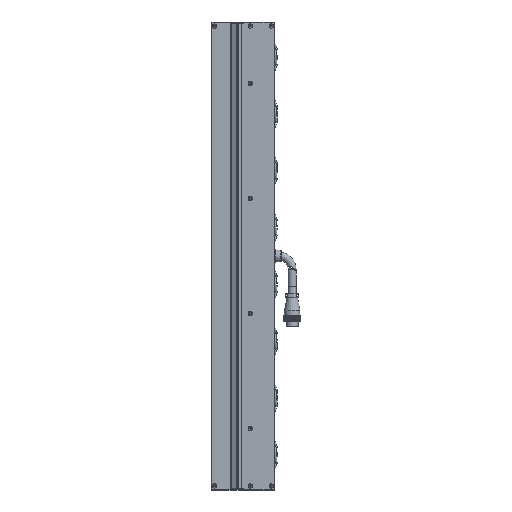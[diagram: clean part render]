
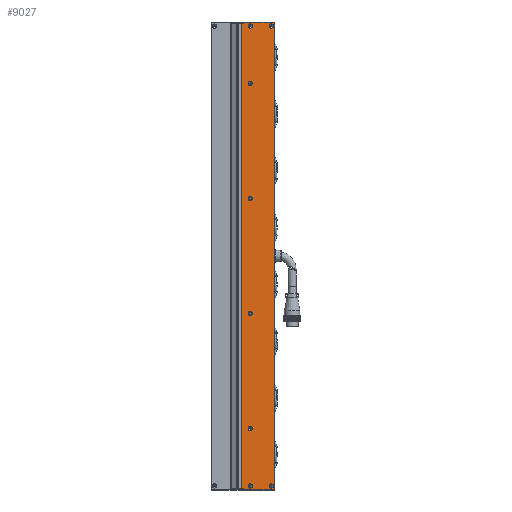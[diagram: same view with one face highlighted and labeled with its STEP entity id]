
A CAD part, left-side view. The second image highlights one B-rep face of the part: STEP entity #9027.
In plain terms, the highlighted planar face has unit normal (-1, 0, 0).
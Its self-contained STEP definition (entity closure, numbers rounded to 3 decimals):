
#577 = DIRECTION ( 'NONE',  ( 0., 0., 1. ) ) ;
#1006 = CARTESIAN_POINT ( 'NONE',  ( -24.998, -36.5, 85. ) ) ;
#1283 = CARTESIAN_POINT ( 'NONE',  ( -24.998, -26.5, 344. ) ) ;
#1455 = DIRECTION ( 'NONE',  ( -1., 0., 0. ) ) ;
#1468 = AXIS2_PLACEMENT_3D ( 'NONE', #47065, #26206, #98172 ) ;
#1773 = EDGE_LOOP ( 'NONE', ( #57017 ) ) ;
#3444 = CARTESIAN_POINT ( 'NONE',  ( -24.998, -26.5, -344. ) ) ;
#3943 = DIRECTION ( 'NONE',  ( -1., 0., 0. ) ) ;
#4529 = EDGE_CURVE ( 'NONE', #14513, #76721, #77367, .T. ) ;
#4598 = CARTESIAN_POINT ( 'NONE',  ( -24.998, -72.5, -344. ) ) ;
#5173 = CARTESIAN_POINT ( 'NONE',  ( -24.998, -67.5, 343.15 ) ) ;
#5901 = LINE ( 'NONE', #89440, #101138 ) ;
#7152 = VERTEX_POINT ( 'NONE', #23415 ) ;
#7849 = CARTESIAN_POINT ( 'NONE',  ( -24.998, -72., 344. ) ) ;
#8111 = AXIS2_PLACEMENT_3D ( 'NONE', #1006, #1455, #577 ) ;
#9027 = ADVANCED_FACE ( 'NONE', ( #43413, #62497, #19624, #95982, #41892, #121118, #56218, #32353, #45066 ), #101625, .F. ) ;
#9588 = AXIS2_PLACEMENT_3D ( 'NONE', #36836, #87060, #107866 ) ;
#11383 = AXIS2_PLACEMENT_3D ( 'NONE', #65580, #3943, #85656 ) ;
#12563 = CIRCLE ( 'NONE', #9588, 3.15 ) ;
#12730 = VECTOR ( 'NONE', #110406, 1000. ) ;
#13164 = ORIENTED_EDGE ( 'NONE', *, *, #58555, .F. ) ;
#14177 = VECTOR ( 'NONE', #96063, 1000. ) ;
#14196 = AXIS2_PLACEMENT_3D ( 'NONE', #106014, #44713, #115660 ) ;
#14513 = VERTEX_POINT ( 'NONE', #47980 ) ;
#14866 = VERTEX_POINT ( 'NONE', #17743 ) ;
#16731 = CARTESIAN_POINT ( 'NONE',  ( -24.998, -67.5, -336.85 ) ) ;
#16773 = CARTESIAN_POINT ( 'NONE',  ( -24.998, -36.5, 255. ) ) ;
#17743 = CARTESIAN_POINT ( 'NONE',  ( -24.998, -23.25, 344. ) ) ;
#18736 = EDGE_CURVE ( 'NONE', #122421, #58386, #109407, .T. ) ;
#19103 = CARTESIAN_POINT ( 'NONE',  ( -24.998, -72.5, 344. ) ) ;
#19624 = FACE_BOUND ( 'NONE', #71407, .T. ) ;
#23340 = AXIS2_PLACEMENT_3D ( 'NONE', #37682, #27448, #58111 ) ;
#23415 = CARTESIAN_POINT ( 'NONE',  ( -24.998, -36.5, 343.15 ) ) ;
#24738 = EDGE_LOOP ( 'NONE', ( #129806 ) ) ;
#25327 = AXIS2_PLACEMENT_3D ( 'NONE', #16773, #57582, #108174 ) ;
#25367 = CARTESIAN_POINT ( 'NONE',  ( -24.998, -72.5, 344. ) ) ;
#25840 = VERTEX_POINT ( 'NONE', #92825 ) ;
#26206 = DIRECTION ( 'NONE',  ( -1., 0., 0. ) ) ;
#27448 = DIRECTION ( 'NONE',  ( -1., 0., 0. ) ) ;
#27704 = ORIENTED_EDGE ( 'NONE', *, *, #95531, .F. ) ;
#29084 = CARTESIAN_POINT ( 'NONE',  ( -24.998, -72.5, -345.5 ) ) ;
#30228 = CARTESIAN_POINT ( 'NONE',  ( -24.998, -26.5, 345.5 ) ) ;
#31568 = DIRECTION ( 'NONE',  ( 0., 0., 1. ) ) ;
#32353 = FACE_BOUND ( 'NONE', #119329, .T. ) ;
#33195 = LINE ( 'NONE', #7849, #114146 ) ;
#33712 = VERTEX_POINT ( 'NONE', #5173 ) ;
#34808 = EDGE_CURVE ( 'NONE', #25840, #25840, #12563, .T. ) ;
#36836 = CARTESIAN_POINT ( 'NONE',  ( -24.998, -36.5, -255. ) ) ;
#36848 = VERTEX_POINT ( 'NONE', #123638 ) ;
#37589 = DIRECTION ( 'NONE',  ( 0., -1., 0. ) ) ;
#37682 = CARTESIAN_POINT ( 'NONE',  ( -24.998, -67.5, 340. ) ) ;
#38185 = EDGE_CURVE ( 'NONE', #33712, #33712, #56949, .T. ) ;
#39419 = CARTESIAN_POINT ( 'NONE',  ( -24.998, -23.25, -344. ) ) ;
#40987 = EDGE_LOOP ( 'NONE', ( #72522 ) ) ;
#41808 = EDGE_CURVE ( 'NONE', #128831, #128831, #73791, .T. ) ;
#41892 = FACE_BOUND ( 'NONE', #44425, .T. ) ;
#43413 = FACE_BOUND ( 'NONE', #100310, .T. ) ;
#44425 = EDGE_LOOP ( 'NONE', ( #27704 ) ) ;
#44713 = DIRECTION ( 'NONE',  ( -1., 0., 0. ) ) ;
#45066 = FACE_OUTER_BOUND ( 'NONE', #122204, .T. ) ;
#45535 = CARTESIAN_POINT ( 'NONE',  ( -24.998, -36.5, 258.15 ) ) ;
#47065 = CARTESIAN_POINT ( 'NONE',  ( -24.998, -67.5, -340. ) ) ;
#47801 = EDGE_CURVE ( 'NONE', #96037, #14513, #111506, .T. ) ;
#47978 = VECTOR ( 'NONE', #130511, 1000. ) ;
#47980 = CARTESIAN_POINT ( 'NONE',  ( -24.998, -26.5, -345.5 ) ) ;
#50351 = CARTESIAN_POINT ( 'NONE',  ( -24.998, -23.25, -344. ) ) ;
#52655 = EDGE_CURVE ( 'NONE', #78268, #78268, #88721, .T. ) ;
#53707 = EDGE_CURVE ( 'NONE', #58386, #60247, #5901, .T. ) ;
#54954 = ORIENTED_EDGE ( 'NONE', *, *, #34808, .F. ) ;
#56218 = FACE_BOUND ( 'NONE', #40987, .T. ) ;
#56949 = CIRCLE ( 'NONE', #23340, 3.15 ) ;
#57017 = ORIENTED_EDGE ( 'NONE', *, *, #82050, .F. ) ;
#57582 = DIRECTION ( 'NONE',  ( -1., 0., 0. ) ) ;
#58111 = DIRECTION ( 'NONE',  ( 0., 0., 1. ) ) ;
#58386 = VERTEX_POINT ( 'NONE', #30228 ) ;
#58555 = EDGE_CURVE ( 'NONE', #71665, #71665, #80130, .T. ) ;
#59285 = CARTESIAN_POINT ( 'NONE',  ( -24.998, -26.5, -337. ) ) ;
#59485 = DIRECTION ( 'NONE',  ( 0., 0., -1. ) ) ;
#60247 = VERTEX_POINT ( 'NONE', #1283 ) ;
#60349 = DIRECTION ( 'NONE',  ( 1., 0., 0. ) ) ;
#60873 = CARTESIAN_POINT ( 'NONE',  ( -24.998, -36.5, -340. ) ) ;
#61664 = AXIS2_PLACEMENT_3D ( 'NONE', #19103, #60349, #59485 ) ;
#62497 = FACE_BOUND ( 'NONE', #24738, .T. ) ;
#65580 = CARTESIAN_POINT ( 'NONE',  ( -24.998, -36.5, -85. ) ) ;
#65868 = ORIENTED_EDGE ( 'NONE', *, *, #103259, .F. ) ;
#67916 = EDGE_LOOP ( 'NONE', ( #85834 ) ) ;
#68510 = ORIENTED_EDGE ( 'NONE', *, *, #116154, .T. ) ;
#68771 = VECTOR ( 'NONE', #127285, 1000. ) ;
#71407 = EDGE_LOOP ( 'NONE', ( #54954 ) ) ;
#71665 = VERTEX_POINT ( 'NONE', #77359 ) ;
#72522 = ORIENTED_EDGE ( 'NONE', *, *, #52655, .F. ) ;
#73363 = VERTEX_POINT ( 'NONE', #119757 ) ;
#73791 = CIRCLE ( 'NONE', #25327, 3.15 ) ;
#76721 = VERTEX_POINT ( 'NONE', #97216 ) ;
#77180 = VERTEX_POINT ( 'NONE', #50351 ) ;
#77359 = CARTESIAN_POINT ( 'NONE',  ( -24.998, -36.5, -336.85 ) ) ;
#77367 = LINE ( 'NONE', #29084, #124752 ) ;
#78040 = DIRECTION ( 'NONE',  ( 0., 0., 1. ) ) ;
#78268 = VERTEX_POINT ( 'NONE', #16731 ) ;
#78384 = LINE ( 'NONE', #25367, #68771 ) ;
#78391 = CARTESIAN_POINT ( 'NONE',  ( -24.998, -72., 345.5 ) ) ;
#80130 = CIRCLE ( 'NONE', #124910, 3.15 ) ;
#82050 = EDGE_CURVE ( 'NONE', #73363, #73363, #86174, .T. ) ;
#85656 = DIRECTION ( 'NONE',  ( 0., 0., 1. ) ) ;
#85834 = ORIENTED_EDGE ( 'NONE', *, *, #41808, .F. ) ;
#86174 = CIRCLE ( 'NONE', #11383, 3.15 ) ;
#87060 = DIRECTION ( 'NONE',  ( -1., 0., 0. ) ) ;
#88063 = ORIENTED_EDGE ( 'NONE', *, *, #53707, .T. ) ;
#88233 = ORIENTED_EDGE ( 'NONE', *, *, #47801, .T. ) ;
#88721 = CIRCLE ( 'NONE', #1468, 3.15 ) ;
#89282 = ORIENTED_EDGE ( 'NONE', *, *, #4529, .T. ) ;
#89440 = CARTESIAN_POINT ( 'NONE',  ( -24.998, -26.5, 337. ) ) ;
#89938 = EDGE_CURVE ( 'NONE', #14866, #60247, #78384, .T. ) ;
#90363 = VECTOR ( 'NONE', #110150, 1000. ) ;
#91986 = DIRECTION ( 'NONE',  ( -1., 0., 0. ) ) ;
#92620 = ORIENTED_EDGE ( 'NONE', *, *, #38185, .F. ) ;
#92825 = CARTESIAN_POINT ( 'NONE',  ( -24.998, -36.5, -251.85 ) ) ;
#93365 = ORIENTED_EDGE ( 'NONE', *, *, #18736, .T. ) ;
#95531 = EDGE_CURVE ( 'NONE', #36848, #36848, #107945, .T. ) ;
#95982 = FACE_BOUND ( 'NONE', #1773, .T. ) ;
#96037 = VERTEX_POINT ( 'NONE', #3444 ) ;
#96063 = DIRECTION ( 'NONE',  ( 0., -1., 0. ) ) ;
#97216 = CARTESIAN_POINT ( 'NONE',  ( -24.998, -72., -345.5 ) ) ;
#98172 = DIRECTION ( 'NONE',  ( 0., 0., 1. ) ) ;
#99606 = DIRECTION ( 'NONE',  ( 0., 0., -1. ) ) ;
#100310 = EDGE_LOOP ( 'NONE', ( #92620 ) ) ;
#101138 = VECTOR ( 'NONE', #99606, 1000. ) ;
#101625 = PLANE ( 'NONE',  #61664 ) ;
#103259 = EDGE_CURVE ( 'NONE', #77180, #14866, #104829, .T. ) ;
#104829 = LINE ( 'NONE', #39419, #12730 ) ;
#106014 = CARTESIAN_POINT ( 'NONE',  ( -24.998, -36.5, 340. ) ) ;
#107866 = DIRECTION ( 'NONE',  ( 0., 0., 1. ) ) ;
#107945 = CIRCLE ( 'NONE', #8111, 3.15 ) ;
#108174 = DIRECTION ( 'NONE',  ( 0., 0., 1. ) ) ;
#109407 = LINE ( 'NONE', #121108, #90363 ) ;
#109424 = LINE ( 'NONE', #4598, #14177 ) ;
#110150 = DIRECTION ( 'NONE',  ( 0., 1., 0. ) ) ;
#110247 = EDGE_CURVE ( 'NONE', #7152, #7152, #111371, .T. ) ;
#110406 = DIRECTION ( 'NONE',  ( 0., 0., 1. ) ) ;
#111102 = ORIENTED_EDGE ( 'NONE', *, *, #125066, .T. ) ;
#111371 = CIRCLE ( 'NONE', #14196, 3.15 ) ;
#111506 = LINE ( 'NONE', #59285, #47978 ) ;
#113520 = ORIENTED_EDGE ( 'NONE', *, *, #89938, .F. ) ;
#114146 = VECTOR ( 'NONE', #78040, 1000. ) ;
#115660 = DIRECTION ( 'NONE',  ( 0., 0., 1. ) ) ;
#116154 = EDGE_CURVE ( 'NONE', #77180, #96037, #109424, .T. ) ;
#119329 = EDGE_LOOP ( 'NONE', ( #13164 ) ) ;
#119757 = CARTESIAN_POINT ( 'NONE',  ( -24.998, -36.5, -81.85 ) ) ;
#121108 = CARTESIAN_POINT ( 'NONE',  ( -24.998, -72.5, 345.5 ) ) ;
#121118 = FACE_BOUND ( 'NONE', #67916, .T. ) ;
#122204 = EDGE_LOOP ( 'NONE', ( #68510, #88233, #89282, #111102, #93365, #88063, #113520, #65868 ) ) ;
#122421 = VERTEX_POINT ( 'NONE', #78391 ) ;
#123638 = CARTESIAN_POINT ( 'NONE',  ( -24.998, -36.5, 88.15 ) ) ;
#124752 = VECTOR ( 'NONE', #37589, 1000. ) ;
#124910 = AXIS2_PLACEMENT_3D ( 'NONE', #60873, #91986, #31568 ) ;
#125066 = EDGE_CURVE ( 'NONE', #76721, #122421, #33195, .T. ) ;
#127285 = DIRECTION ( 'NONE',  ( 0., -1., 0. ) ) ;
#128831 = VERTEX_POINT ( 'NONE', #45535 ) ;
#129806 = ORIENTED_EDGE ( 'NONE', *, *, #110247, .F. ) ;
#130511 = DIRECTION ( 'NONE',  ( 0., 0., -1. ) ) ;
